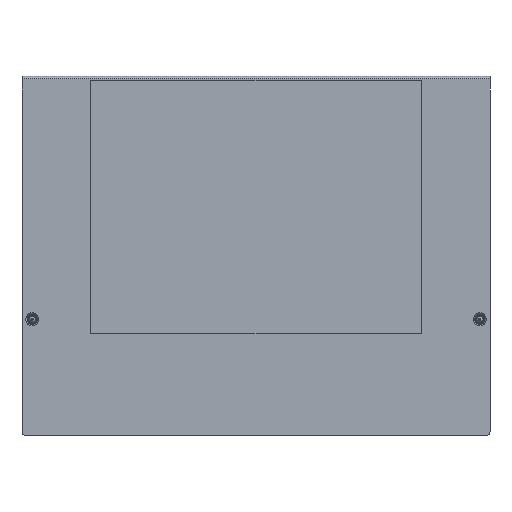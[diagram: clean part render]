
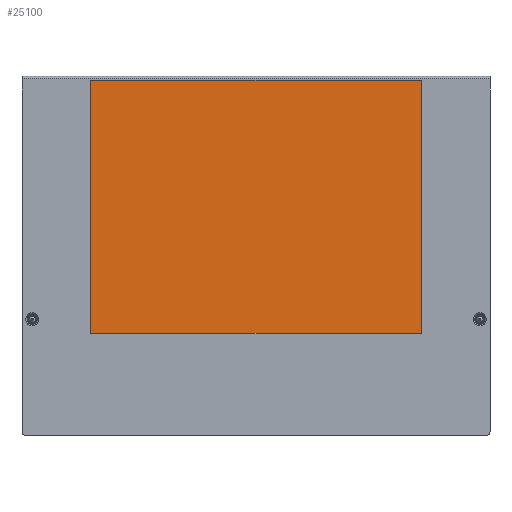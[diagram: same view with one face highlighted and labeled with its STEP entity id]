
A CAD part, front view. The second image highlights one B-rep face of the part: STEP entity #25100.
In plain terms, the highlighted planar face has unit normal (0, -1, 0).
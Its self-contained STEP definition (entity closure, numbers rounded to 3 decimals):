
#25021=DIRECTION('',(0.,0.,1.));
#25022=VECTOR('',#25021,125.);
#25023=CARTESIAN_POINT('',(-81.75,0.,-62.5));
#25024=LINE('',#25023,#25022);
#25025=DIRECTION('',(1.,0.,0.));
#25026=VECTOR('',#25025,163.5);
#25027=CARTESIAN_POINT('',(-81.75,0.,62.5));
#25028=LINE('',#25027,#25026);
#25029=DIRECTION('',(0.,0.,-1.));
#25030=VECTOR('',#25029,125.);
#25031=CARTESIAN_POINT('',(81.75,0.,62.5));
#25032=LINE('',#25031,#25030);
#25033=DIRECTION('',(-1.,0.,0.));
#25034=VECTOR('',#25033,163.5);
#25035=CARTESIAN_POINT('',(81.75,0.,-62.5));
#25036=LINE('',#25035,#25034);
#25069=CARTESIAN_POINT('',(-81.75,0.,-62.5));
#25070=CARTESIAN_POINT('',(-81.75,0.,62.5));
#25071=VERTEX_POINT('',#25069);
#25072=VERTEX_POINT('',#25070);
#25073=CARTESIAN_POINT('',(81.75,0.,62.5));
#25074=VERTEX_POINT('',#25073);
#25075=CARTESIAN_POINT('',(81.75,0.,-62.5));
#25076=VERTEX_POINT('',#25075);
#25085=CARTESIAN_POINT('',(0.,0.,0.));
#25086=DIRECTION('',(0.,1.,0.));
#25087=DIRECTION('',(1.,0.,0.));
#25088=AXIS2_PLACEMENT_3D('',#25085,#25086,#25087);
#25089=PLANE('',#25088);
#25091=ORIENTED_EDGE('',*,*,#25090,.T.);
#25093=ORIENTED_EDGE('',*,*,#25092,.T.);
#25095=ORIENTED_EDGE('',*,*,#25094,.T.);
#25097=ORIENTED_EDGE('',*,*,#25096,.T.);
#25098=EDGE_LOOP('',(#25091,#25093,#25095,#25097));
#25099=FACE_OUTER_BOUND('',#25098,.F.);
#25090=EDGE_CURVE('',#25071,#25072,#25024,.T.);
#25092=EDGE_CURVE('',#25072,#25074,#25028,.T.);
#25094=EDGE_CURVE('',#25074,#25076,#25032,.T.);
#25096=EDGE_CURVE('',#25076,#25071,#25036,.T.);
#25100=ADVANCED_FACE('',(#25099),#25089,.F.);
